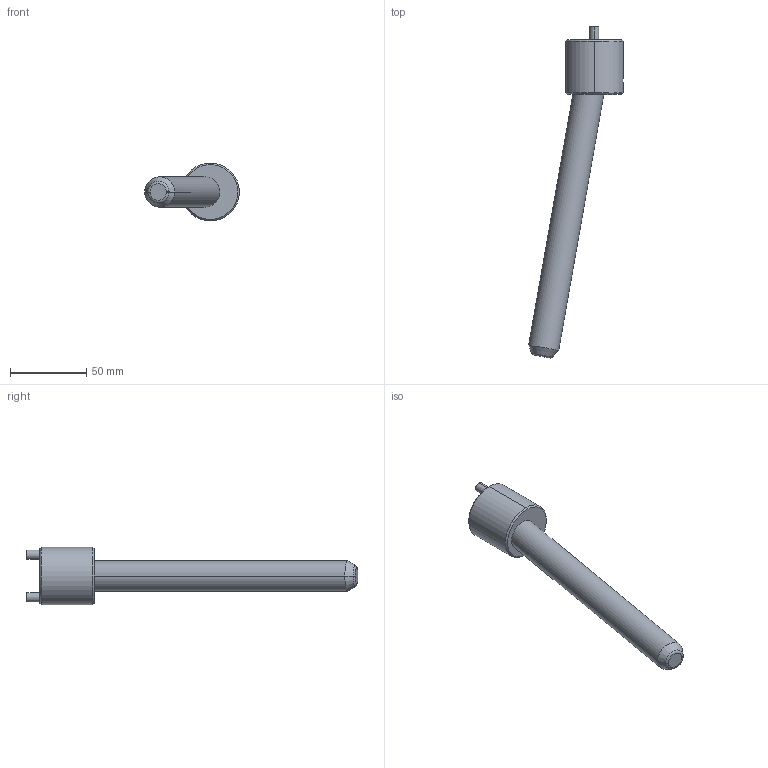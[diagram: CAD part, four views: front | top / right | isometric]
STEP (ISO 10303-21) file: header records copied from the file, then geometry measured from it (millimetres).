
FILE_DESCRIPTION(('CATIA V5 STEP Exchange'),'2;1');
FILE_NAME('C:\Users\Raffaele\Desktop\3D BOLEX\3D FILES CF BOLEX\19-INCLINED ASSEMBLY REF_CI\CI1020175.stp','2019-06-21T13:56:20+00:00',('none'),('none'),'CATIA Version 5 Release 20 GA (IN-10)','CATIA V5 STEP AP203','none');
FILE_SCHEMA(('CONFIG_CONTROL_DESIGN'));
Length unit declared in the file: millimetre
Products named in the file (1): CI1020175
Assembly tree (2 placements, depth 2):
  CI1020175
    #58
    #995
Bounding box: 62.19 x 218.31 x 38 mm (x, y, z)
Volume: 95072.1 mm3; surface area: 22166.6 mm2
Topology: 2 solids, 2 shells, 39 faces, 82 edges, 47 vertices
Faces by surface type: cone 14, cylinder 14, plane 7, torus 4
Entity records: 1494 total; most frequent: CARTESIAN_POINT 635, ORIENTED_EDGE 160, DIRECTION 145, EDGE_CURVE 80, AXIS2_PLACEMENT_3D 72, VERTEX_POINT 47, EDGE_LOOP 43, ADVANCED_FACE 39
